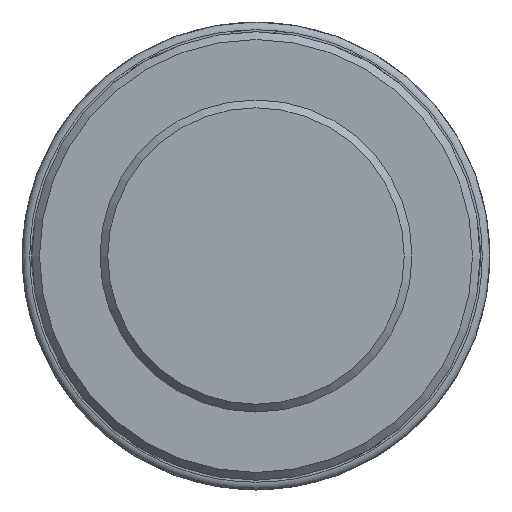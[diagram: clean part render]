
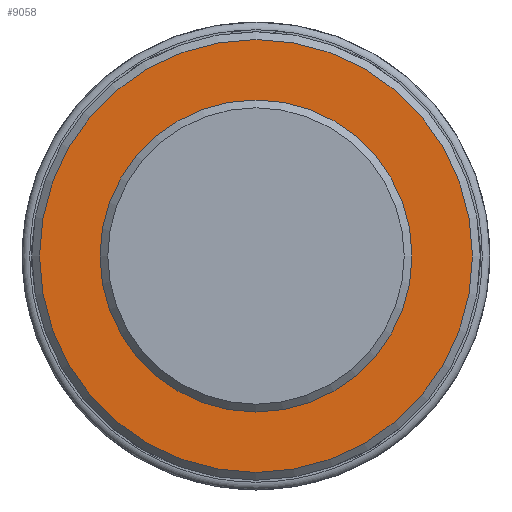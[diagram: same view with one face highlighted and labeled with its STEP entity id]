
A CAD part, front view. The second image highlights one B-rep face of the part: STEP entity #9058.
In plain terms, the highlighted planar face has unit normal (0, -1, 0) as drawn and (0, 1, 0) by its records, which use the part's own axes.
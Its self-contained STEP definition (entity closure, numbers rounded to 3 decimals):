
#73=CIRCLE('',#9397,55.5);
#382=PLANE('',#9400);
#871=FACE_OUTER_BOUND('',#1437,.T.);
#1437=EDGE_LOOP('',(#8294));
#4383=VERTEX_POINT('',#16646);
#5690=EDGE_CURVE('',#4383,#4383,#73,.T.);
#8294=ORIENTED_EDGE('',*,*,#5690,.F.);
#9058=ADVANCED_FACE('',(#871),#382,.T.);
#9397=AXIS2_PLACEMENT_3D('',#16647,#10714,#10715);
#9400=AXIS2_PLACEMENT_3D('',#16885,#10720,#10721);
#10714=DIRECTION('center_axis',(0.,-1.,0.));
#10715=DIRECTION('ref_axis',(1.,0.,0.));
#10720=DIRECTION('center_axis',(0.,1.,0.));
#10721=DIRECTION('ref_axis',(0.,0.,1.));
#16646=CARTESIAN_POINT('',(-55.5,52.5,0.));
#16647=CARTESIAN_POINT('Origin',(0.,52.5,0.));
#16885=CARTESIAN_POINT('Origin',(0.,52.5,0.));
